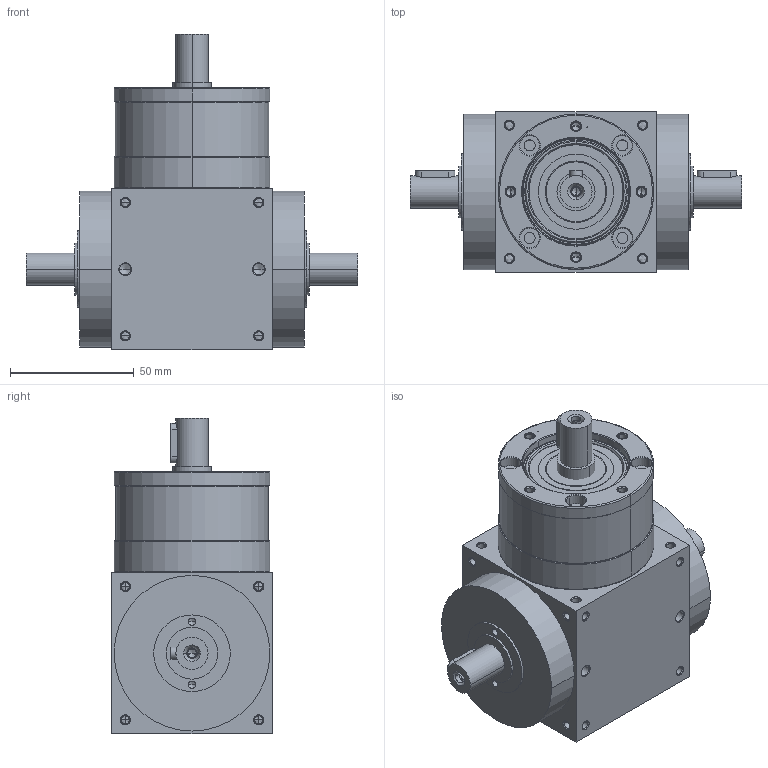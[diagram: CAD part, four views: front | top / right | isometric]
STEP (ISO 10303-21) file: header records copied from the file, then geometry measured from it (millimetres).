
FILE_DESCRIPTION((''),'2;1');
FILE_NAME('ATB065L-1_ASM','2014-07-18T',('D00080'),(''),'PRO/ENGINEER BY PARAMETRIC TECHNOLOGY CORPORATION, 2008170','PRO/ENGINEER BY PARAMETRIC TECHNOLOGY CORPORATION, 2008170','');
FILE_SCHEMA(('CONFIG_CONTROL_DESIGN'));
Length unit declared in the file: millimetre
Products named in the file (4): ATBL-HOUSING-1-2; P1820200001; 22400071002; ATB065L-1_ASM
Assembly tree (3 placements, depth 2):
  ATB065L-1_ASM
    ATBL-HOUSING-1-2
    P1820200001
    22400071002
Bounding box: 134 x 65 x 127.5 mm (x, y, z)
Volume: 445619.3 mm3; surface area: 66837 mm2
Topology: 4 solids, 35 shells, 577 faces, 1431 edges, 848 vertices
Faces by surface type: cylinder 268, cone 196, plane 77, torus 36
Entity records: 17270 total; most frequent: CARTESIAN_POINT 3651, DIRECTION 3045, ORIENTED_EDGE 2586, EDGE_CURVE 1355, AXIS2_PLACEMENT_3D 1274, VERTEX_POINT 848, CIRCLE 686, EDGE_LOOP 683
